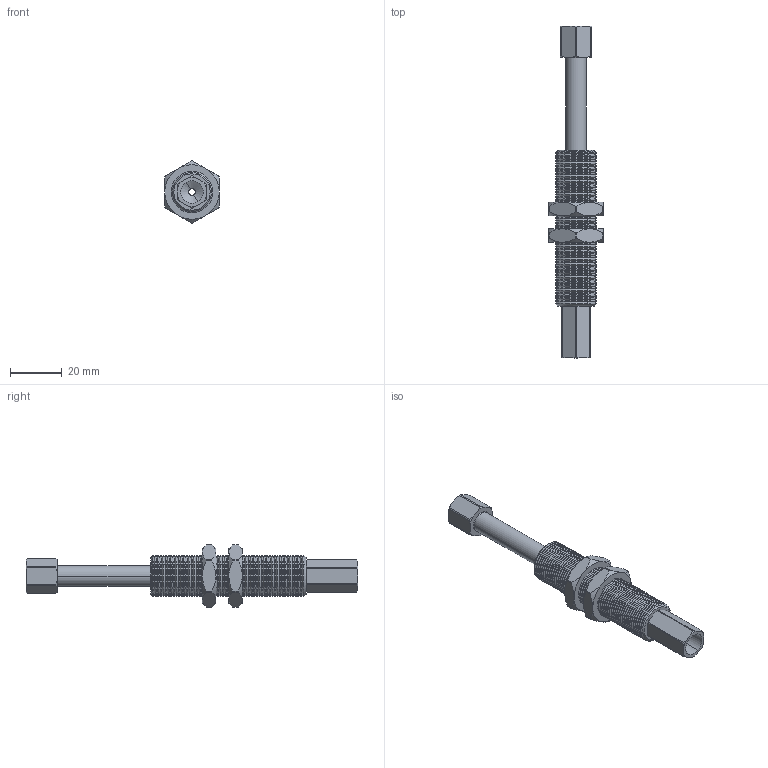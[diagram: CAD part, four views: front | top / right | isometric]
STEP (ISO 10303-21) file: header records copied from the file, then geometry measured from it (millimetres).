
FILE_DESCRIPTION (( 'STEP AP214' ), '1' );
FILE_NAME ('VFRT1636-G18.STEP', '2023-03-09T02:14:22', ( 'Windows User' ), ( 'P R C' ), 'SwSTEP 2.0', 'SolidWorks 2019', '' );
FILE_SCHEMA (( 'AUTOMOTIVE_DESIGN' ));
Length unit declared in the file: millimetre
Products named in the file (5): VFR1436粣裝; M161.0蹟譫; VFRT1636-G18掛极; VFRT1636-G18; 2.Y01804
Assembly tree (5 placements, depth 2):
  VFRT1636-G18
    VFR1436粣裝
    2.Y01804
    M161.0蹟譫  x2
    VFRT1636-G18掛极
Bounding box: 21 x 128 x 24 mm (x, y, z)
Volume: 16334.1 mm3; surface area: 13631.7 mm2
Topology: 5 solids, 5 shells, 557 faces, 1178 edges, 638 vertices
Faces by surface type: cone 328, cylinder 184, plane 41, torus 4
Entity records: 14266 total; most frequent: DIRECTION 2656, CARTESIAN_POINT 2559, ORIENTED_EDGE 2224, EDGE_CURVE 1112, AXIS2_PLACEMENT_3D 1079, VERTEX_POINT 598, EDGE_LOOP 544, CIRCLE 542
